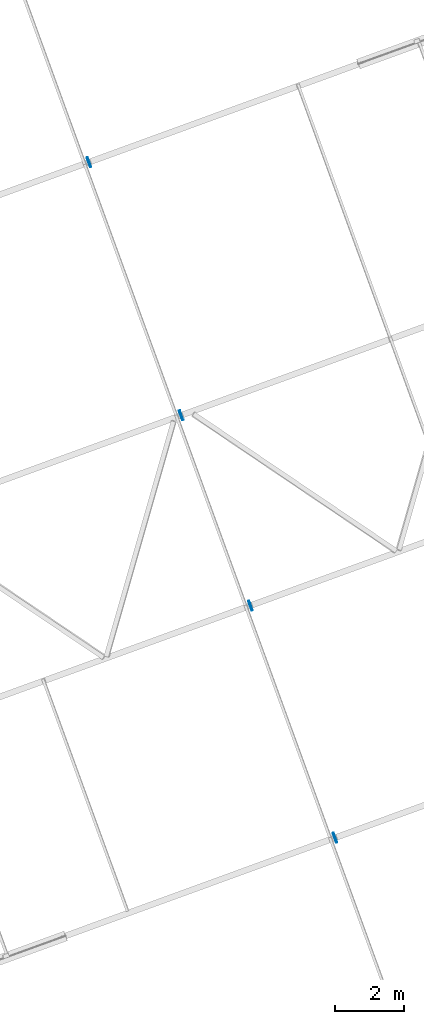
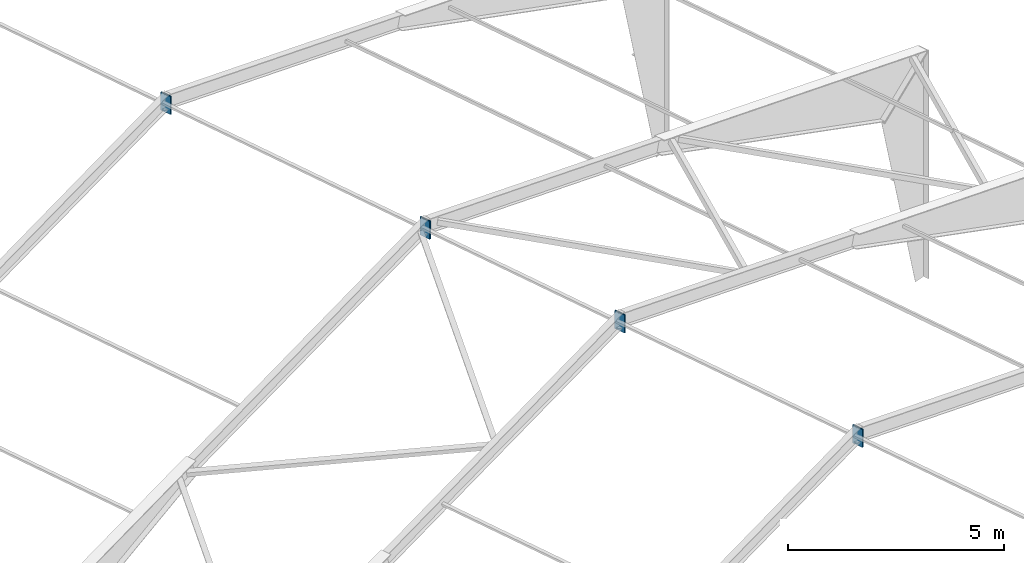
# One storey, part 17 of 17: 8 plates, 8 elements without a shape of their own.
"""IFC4 building model written with IfcOpenShell, lengths in millimetres."""

from ifc_helpers import new_model, si_unit, direction, frame, origin_with_axes, place, context, subcontext, project, spatial, polygons, material, element, aggregate, save


model = new_model("IFC4")

# Units and contexts
model_context = context("Model", 3, precision=0.2, world=frame((203566.813, 116264.779, 0.0), z_axis=(0.0, 0.0, 1.0), x_axis=(1.0, 0.0, 0.0)), true_north=direction((-0.9396138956, -0.3422363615)))
body_context = subcontext(model_context, "Body", "Model", "MODEL_VIEW")
ifc_project = project(units=[si_unit("LENGTHUNIT", "METRE", prefix="MILLI"), si_unit("AREAUNIT", "SQUARE_METRE"), si_unit("VOLUMEUNIT", "CUBIC_METRE"), si_unit("MASSUNIT", "GRAM", prefix="KILO"), si_unit("TIMEUNIT", "SECOND"), si_unit("PLANEANGLEUNIT", "RADIAN"), si_unit("SOLIDANGLEUNIT", "STERADIAN"), si_unit("THERMODYNAMICTEMPERATUREUNIT", "DEGREE_CELSIUS"), si_unit("LUMINOUSINTENSITYUNIT", "LUMEN")], contexts=[model_context])

# Site, building, storey
site_placement = place(None, origin_with_axes())
site = spatial("IfcSite", under=ifc_project, at=site_placement, Name="Nobelprojektet", CompositionType="ELEMENT")
building_placement = place(site_placement, origin_with_axes())
building = spatial("IfcBuilding", under=site, at=building_placement, Name="Hall B", CompositionType="ELEMENT")
storey_placement = place(building_placement, frame((0.0, 0.0, 136000.0), z_axis=(0.0, 0.0, 1.0), x_axis=(1.0, 0.0, 0.0)))
storey = spatial("IfcBuildingStorey", under=building, at=storey_placement, Name="Plan_2", CompositionType="ELEMENT", Elevation=136000.0)

# Assembly, plate
assembly_1_placement = place(storey_placement, frame((155052.05448, 152887.95405, 7973.74542), z_axis=(0.9396136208, 0.3422371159, 0.0), x_axis=(0.0, 0.0, 1.0)))
assembly_1 = element("IfcElementAssembly", 1, at=assembly_1_placement, inside=storey, Name="BEF. STOMME", PredefinedType="NOTDEFINED")
ifc_material = material(Name="S355J2", Category="STEEL")
plate_1_placement = place(assembly_1_placement, frame((509.99451, 0.0, 0.0), z_axis=(-1.0, 0.0, 0.0), x_axis=(0.0, 0.0, 1.0)))
plate_1 = element("IfcPlate", 2, at=plate_1_placement, material=ifc_material, Name="BEF. STOMME", PredefinedType="NOTDEFINED", context=body_context, shape_type="Tessellation", body=[
    polygons([(-10.0, -150.0, 509.99451), (-10.0, 150.0, 509.99451), (-10.0, 150.0, 0.0), (-10.0, -150.0, 0.0), (10.0, 150.0, 509.99451), (10.0, 150.0, 0.0), (10.0, -150.0, 509.99451), (10.0, -150.0, 0.0)], [[[1, 2, 3, 4]], [[2, 5, 6, 3]], [[5, 7, 8, 6]], [[7, 1, 4, 8]], [[6, 8, 4, 3]], [[7, 5, 2, 1]]], closed=True),
])
aggregate(assembly_1, [plate_1])

assembly_2_placement = place(storey_placement, frame((152587.94724, 159653.17212, 7973.74542), z_axis=(0.9396136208, 0.3422371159, 0.0), x_axis=(0.0, 0.0, 1.0)))
assembly_2 = element("IfcElementAssembly", 3, at=assembly_2_placement, inside=storey, Name="BEF. STOMME", PredefinedType="NOTDEFINED")
plate_2_placement = place(assembly_2_placement, frame((509.99451, 0.0, 0.0), z_axis=(-1.0, 0.0, 0.0), x_axis=(0.0, 0.0, 1.0)))
plate_2 = element("IfcPlate", 4, at=plate_2_placement, material=ifc_material, Name="BEF. STOMME", PredefinedType="NOTDEFINED", context=body_context, shape_type="Tessellation", body=[
    polygons([(-10.0, -150.0, 509.99451), (-10.0, 150.0, 509.99451), (-10.0, 150.0, 0.0), (-10.0, -150.0, 0.0), (10.0, 150.0, 509.99451), (10.0, 150.0, 0.0), (10.0, -150.0, 509.99451), (10.0, -150.0, 0.0)], [[[1, 2, 3, 4]], [[2, 5, 6, 3]], [[5, 7, 8, 6]], [[7, 1, 4, 8]], [[6, 8, 4, 3]], [[7, 5, 2, 1]]], closed=True),
])
aggregate(assembly_2, [plate_2])

assembly_3_placement = place(storey_placement, frame((150568.74825, 165196.89248, 7973.74542), z_axis=(0.9396136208, 0.3422371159, 0.0), x_axis=(0.0, 0.0, 1.0)))
assembly_3 = element("IfcElementAssembly", 5, at=assembly_3_placement, inside=storey, Name="BEF. STOMME", PredefinedType="NOTDEFINED")
plate_3_placement = place(assembly_3_placement, frame((509.99451, 0.0, 0.0), z_axis=(-1.0, 0.0, 0.0), x_axis=(0.0, 0.0, 1.0)))
plate_3 = element("IfcPlate", 6, at=plate_3_placement, material=ifc_material, Name="BEF. STOMME", PredefinedType="NOTDEFINED", context=body_context, shape_type="Tessellation", body=[
    polygons([(-10.0, -150.0, 509.99451), (-10.0, 150.0, 509.99451), (-10.0, 150.0, 0.0), (-10.0, -150.0, 0.0), (10.0, 150.0, 509.99451), (10.0, 150.0, 0.0), (10.0, -150.0, 509.99451), (10.0, -150.0, 0.0)], [[[1, 2, 3, 4]], [[2, 5, 6, 3]], [[5, 7, 8, 6]], [[7, 1, 4, 8]], [[6, 8, 4, 3]], [[7, 5, 2, 1]]], closed=True),
])
aggregate(assembly_3, [plate_3])

assembly_4_placement = place(storey_placement, frame((147882.18689, 172572.85941, 7973.74542), z_axis=(0.9396136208, 0.3422371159, 0.0), x_axis=(0.0, 0.0, 1.0)))
assembly_4 = element("IfcElementAssembly", 7, at=assembly_4_placement, inside=storey, Name="BEF. STOMME", PredefinedType="NOTDEFINED")
plate_4_placement = place(assembly_4_placement, frame((509.99451, 0.0, 0.0), z_axis=(-1.0, 0.0, 0.0), x_axis=(0.0, 0.0, 1.0)))
plate_4 = element("IfcPlate", 8, at=plate_4_placement, material=ifc_material, Name="BEF. STOMME", PredefinedType="NOTDEFINED", context=body_context, shape_type="Tessellation", body=[
    polygons([(-10.0, -150.0, 509.99451), (-10.0, 150.0, 509.99451), (-10.0, 150.0, 0.0), (-10.0, -150.0, 0.0), (10.0, 150.0, 509.99451), (10.0, 150.0, 0.0), (10.0, -150.0, 509.99451), (10.0, -150.0, 0.0)], [[[1, 2, 3, 4]], [[2, 5, 6, 3]], [[5, 7, 8, 6]], [[7, 1, 4, 8]], [[6, 8, 4, 3]], [[7, 5, 2, 1]]], closed=True),
])
aggregate(assembly_4, [plate_4])

assembly_5_placement = place(storey_placement, frame((155070.85492, 152894.80195, 7973.74323), z_axis=(0.9396136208, 0.3422371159, 0.0), x_axis=(0.0, 0.0, 1.0)))
assembly_5 = element("IfcElementAssembly", 9, at=assembly_5_placement, inside=storey, Name="BEF. STOMME", PredefinedType="NOTDEFINED")
plate_5_placement = place(assembly_5_placement, frame((509.99451, 0.0, 0.0), z_axis=(-1.0, 0.0, 0.0), x_axis=(0.0, 0.0, 1.0)))
plate_5 = element("IfcPlate", 10, at=plate_5_placement, material=ifc_material, Name="BEF. STOMME", PredefinedType="NOTDEFINED", context=body_context, shape_type="Tessellation", body=[
    polygons([(-10.0, -150.0, 509.99451), (-10.0, 150.0, 509.99451), (-10.0, 150.0, 0.0), (-10.0, -150.0, 0.0), (10.0, 150.0, 509.99451), (10.0, 150.0, 0.0), (10.0, -150.0, 509.99451), (10.0, -150.0, 0.0)], [[[1, 2, 3, 4]], [[2, 5, 6, 3]], [[5, 7, 8, 6]], [[7, 1, 4, 8]], [[6, 8, 4, 3]], [[7, 5, 2, 1]]], closed=True),
])
aggregate(assembly_5, [plate_5])

assembly_6_placement = place(storey_placement, frame((152606.74769, 159660.02002, 7973.74323), z_axis=(0.9396136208, 0.3422371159, 0.0), x_axis=(0.0, 0.0, 1.0)))
assembly_6 = element("IfcElementAssembly", 11, at=assembly_6_placement, inside=storey, Name="BEF. STOMME", PredefinedType="NOTDEFINED")
plate_6_placement = place(assembly_6_placement, frame((509.99451, 0.0, 0.0), z_axis=(-1.0, 0.0, 0.0), x_axis=(0.0, 0.0, 1.0)))
plate_6 = element("IfcPlate", 12, at=plate_6_placement, material=ifc_material, Name="BEF. STOMME", PredefinedType="NOTDEFINED", context=body_context, shape_type="Tessellation", body=[
    polygons([(-10.0, -150.0, 509.99451), (-10.0, 150.0, 509.99451), (-10.0, 150.0, 0.0), (-10.0, -150.0, 0.0), (10.0, 150.0, 509.99451), (10.0, 150.0, 0.0), (10.0, -150.0, 509.99451), (10.0, -150.0, 0.0)], [[[1, 2, 3, 4]], [[2, 5, 6, 3]], [[5, 7, 8, 6]], [[7, 1, 4, 8]], [[6, 8, 4, 3]], [[7, 5, 2, 1]]], closed=True),
])
aggregate(assembly_6, [plate_6])

assembly_7_placement = place(storey_placement, frame((150587.5487, 165203.74038, 7973.74323), z_axis=(0.9396136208, 0.3422371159, 0.0), x_axis=(0.0, 0.0, 1.0)))
assembly_7 = element("IfcElementAssembly", 13, at=assembly_7_placement, inside=storey, Name="BEF. STOMME", PredefinedType="NOTDEFINED")
plate_7_placement = place(assembly_7_placement, frame((509.99451, 0.0, 0.0), z_axis=(-1.0, 0.0, 0.0), x_axis=(0.0, 0.0, 1.0)))
plate_7 = element("IfcPlate", 14, at=plate_7_placement, material=ifc_material, Name="BEF. STOMME", PredefinedType="NOTDEFINED", context=body_context, shape_type="Tessellation", body=[
    polygons([(-10.0, -150.0, 509.99451), (-10.0, 150.0, 509.99451), (-10.0, 150.0, 0.0), (-10.0, -150.0, 0.0), (10.0, 150.0, 509.99451), (10.0, 150.0, 0.0), (10.0, -150.0, 509.99451), (10.0, -150.0, 0.0)], [[[1, 2, 3, 4]], [[2, 5, 6, 3]], [[5, 7, 8, 6]], [[7, 1, 4, 8]], [[6, 8, 4, 3]], [[7, 5, 2, 1]]], closed=True),
])
aggregate(assembly_7, [plate_7])

assembly_8_placement = place(storey_placement, frame((147900.98734, 172579.7073, 7973.74323), z_axis=(0.9396136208, 0.3422371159, 0.0), x_axis=(0.0, 0.0, 1.0)))
assembly_8 = element("IfcElementAssembly", 15, at=assembly_8_placement, inside=storey, Name="BEF. STOMME", PredefinedType="NOTDEFINED")
plate_8_placement = place(assembly_8_placement, frame((509.99451, 0.0, 0.0), z_axis=(-1.0, 0.0, 0.0), x_axis=(0.0, 0.0, 1.0)))
plate_8 = element("IfcPlate", 16, at=plate_8_placement, material=ifc_material, Name="BEF. STOMME", PredefinedType="NOTDEFINED", context=body_context, shape_type="Tessellation", body=[
    polygons([(-10.0, -150.0, 509.99451), (-10.0, 150.0, 509.99451), (-10.0, 150.0, 0.0), (-10.0, -150.0, 0.0), (10.0, 150.0, 509.99451), (10.0, 150.0, 0.0), (10.0, -150.0, 509.99451), (10.0, -150.0, 0.0)], [[[1, 2, 3, 4]], [[2, 5, 6, 3]], [[5, 7, 8, 6]], [[7, 1, 4, 8]], [[6, 8, 4, 3]], [[7, 5, 2, 1]]], closed=True),
])
aggregate(assembly_8, [plate_8])

save(model, "model.ifc")
